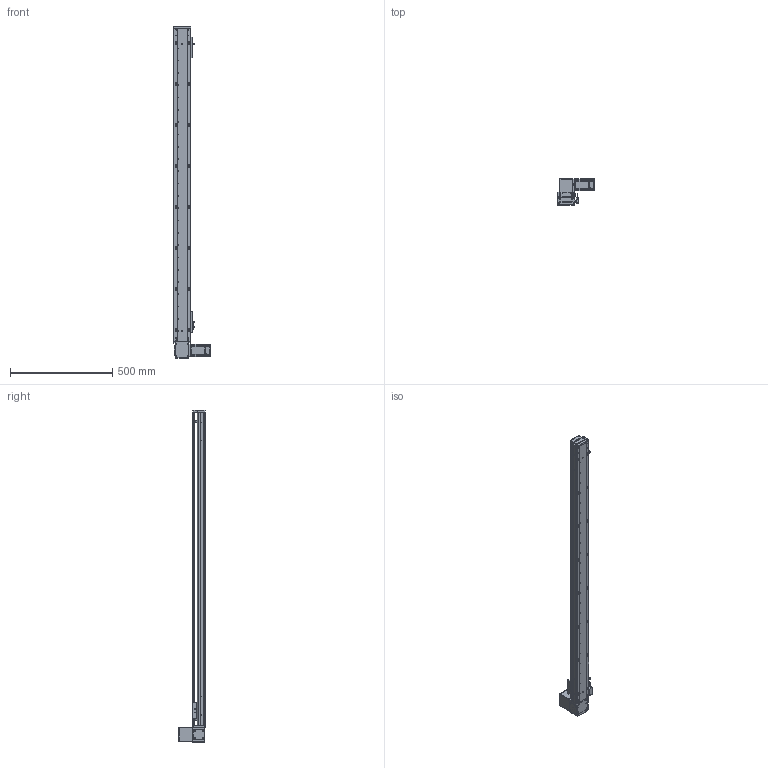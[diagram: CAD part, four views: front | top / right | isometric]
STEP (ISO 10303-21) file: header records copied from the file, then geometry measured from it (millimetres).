
FILE_DESCRIPTION (( 'STEP AP203' ), '1' );
FILE_NAME ('RY80-T-300-UR.SLDASM_1350.step', '2021-03-01T02:27:14', ( '盈信电脑' ), ( '东莞市道滘镇水果街19号' ), 'SwSTEP 2.0', 'SolidWorks 2012', '' );
FILE_SCHEMA (( 'CONFIG_CONTROL_DESIGN' ));
Length unit declared in the file: millimetre
Products named in the file (20): RY80-T肮祭謫臏賑輸; RY80-T-300-UR倰第菁釱_1350; 覜茼ん672; RY80-T-300-UR倰第奻裔啣_1350; 672嫖萇羲壽假蚾釱; RY80-T綴裔啣; RY80-T-300-UR.SLDASM_1350; RY80-T萇儂假蚾啣; RY80-T肮祭謫奻殏俋欶; RY80-T-M4蹟翐2; 1; RY80-T-上下折同步轮盖板; RY80-T翋肮祭謫裔啣; RY100-T粣創揤踡裔; RY80-T粣創揤踡輸; RY80-T肮祭湍揤輸2; 滅袉蝶18-10; RY80-T肮祭湍揤輸1; RY80俋离覜茼え; RY80-T-翋肮祭謫釱
Assembly tree (23 placements, depth 2):
  RY80-T-300-UR.SLDASM_1350
    RY80-T-300-UR倰第菁釱_1350
    RY80-T肮祭謫臏賑輸
    RY80-T-300-UR倰第奻裔啣_1350
    RY80-T綴裔啣
    672嫖萇羲壽假蚾釱  x2
    覜茼ん672  x3
    RY80俋离覜茼え
    RY80-T-翋肮祭謫釱
    RY80-T肮祭湍揤輸1
    RY80-T肮祭湍揤輸2
    RY80-T粣創揤踡輸
    滅袉蝶18-10  x2
    RY100-T粣創揤踡裔
    RY80-T翋肮祭謫裔啣
    RY80-T-上下折同步轮盖板
    1
    RY80-T肮祭謫奻殏俋欶
    RY80-T-M4蹟翐2
    RY80-T萇儂假蚾啣
Bounding box: 180 x 130.5 x 1620 mm (x, y, z)
Volume: 2645322.6 mm3; surface area: 1118354.3 mm2
Topology: 23 solids, 23 shells, 2534 faces, 6996 edges, 4546 vertices
Faces by surface type: plane 1345, cylinder 991, cone 142, bspline 56
Entity records: 81364 total; most frequent: CARTESIAN_POINT 19834, ORIENTED_EDGE 12636, DIRECTION 11890, EDGE_CURVE 6318, VERTEX_POINT 4150, AXIS2_PLACEMENT_3D 4022, VECTOR 3846, LINE 3846
